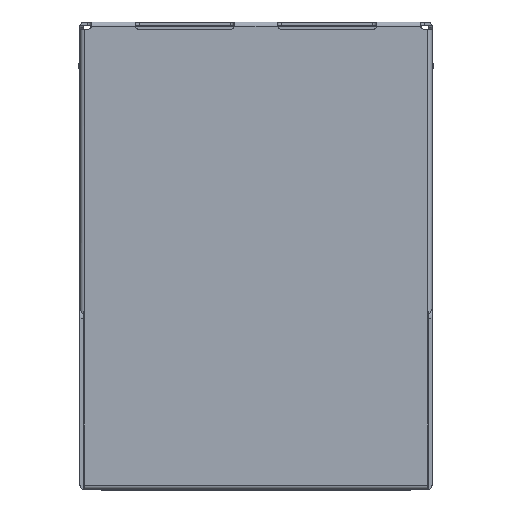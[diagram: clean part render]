
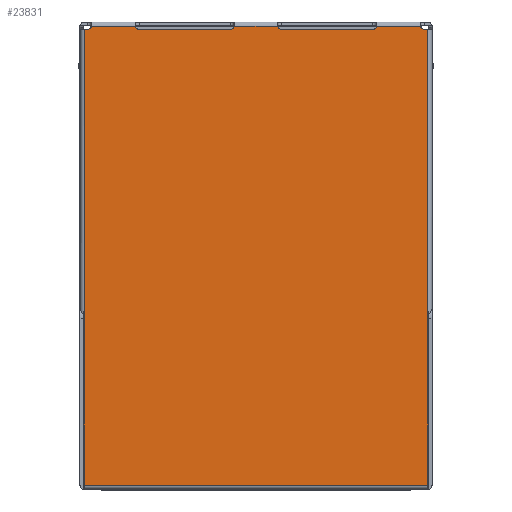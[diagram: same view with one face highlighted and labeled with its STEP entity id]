
A CAD part, top view. The second image highlights one B-rep face of the part: STEP entity #23831.
In plain terms, the highlighted planar face has unit normal (0, 0, 1).
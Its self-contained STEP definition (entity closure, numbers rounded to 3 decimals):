
#211 = VECTOR ( 'NONE', #10780, 1000. ) ;
#354 = ORIENTED_EDGE ( 'NONE', *, *, #30106, .T. ) ;
#732 = AXIS2_PLACEMENT_3D ( 'NONE', #48425, #31951, #11355 ) ;
#805 = EDGE_CURVE ( 'NONE', #3966, #19915, #39595, .T. ) ;
#838 = CARTESIAN_POINT ( 'NONE',  ( 0., 10.45, 13.5 ) ) ;
#1648 = CARTESIAN_POINT ( 'NONE',  ( 0., -10.45, 13.5 ) ) ;
#2051 = ORIENTED_EDGE ( 'NONE', *, *, #38008, .T. ) ;
#2305 = ORIENTED_EDGE ( 'NONE', *, *, #5623, .T. ) ;
#2688 = ORIENTED_EDGE ( 'NONE', *, *, #12637, .T. ) ;
#2921 = CARTESIAN_POINT ( 'NONE',  ( -1.175, 10.309, 13.5 ) ) ;
#3395 = VERTEX_POINT ( 'NONE', #2921 ) ;
#3687 = ORIENTED_EDGE ( 'NONE', *, *, #41191, .F. ) ;
#3710 = CARTESIAN_POINT ( 'NONE',  ( 5.325, 10.309, 13.5 ) ) ;
#3842 = LINE ( 'NONE', #19782, #6639 ) ;
#3966 = VERTEX_POINT ( 'NONE', #42006 ) ;
#4695 = ORIENTED_EDGE ( 'NONE', *, *, #8050, .F. ) ;
#5623 = EDGE_CURVE ( 'NONE', #41560, #51637, #50315, .T. ) ;
#6034 = ORIENTED_EDGE ( 'NONE', *, *, #805, .T. ) ;
#6212 = LINE ( 'NONE', #838, #13715 ) ;
#6259 = DIRECTION ( 'NONE',  ( -1., 0., 0. ) ) ;
#6597 = EDGE_CURVE ( 'NONE', #25002, #3395, #42719, .T. ) ;
#6639 = VECTOR ( 'NONE', #44136, 1000. ) ;
#6870 = LINE ( 'NONE', #19267, #53304 ) ;
#6939 = ORIENTED_EDGE ( 'NONE', *, *, #10053, .T. ) ;
#7204 = CARTESIAN_POINT ( 'NONE',  ( 7.82, -10.65, 13.5 ) ) ;
#7289 = DIRECTION ( 'NONE',  ( 0., 0., 1. ) ) ;
#7470 = DIRECTION ( 'NONE',  ( 0., -1., 0. ) ) ;
#7755 = AXIS2_PLACEMENT_3D ( 'NONE', #37603, #25191, #29037 ) ;
#8050 = EDGE_CURVE ( 'NONE', #21871, #16995, #52303, .T. ) ;
#8336 = CARTESIAN_POINT ( 'NONE',  ( -5.497, 10.45, 13.5 ) ) ;
#9190 = DIRECTION ( 'NONE',  ( -1., 0., 0. ) ) ;
#9306 = CARTESIAN_POINT ( 'NONE',  ( 5.497, 10.45, 13.5 ) ) ;
#9910 = CARTESIAN_POINT ( 'NONE',  ( -1.175, 10.484, 13.5 ) ) ;
#10053 = EDGE_CURVE ( 'NONE', #51447, #14689, #44040, .T. ) ;
#10780 = DIRECTION ( 'NONE',  ( 1., 0., 0. ) ) ;
#10958 = DIRECTION ( 'NONE',  ( 1., 0., 0. ) ) ;
#11047 = EDGE_CURVE ( 'NONE', #47498, #17635, #47841, .T. ) ;
#11319 = FACE_OUTER_BOUND ( 'NONE', #16331, .T. ) ;
#11355 = DIRECTION ( 'NONE',  ( 1., 0., 0. ) ) ;
#11733 = CARTESIAN_POINT ( 'NONE',  ( 7.82, -10.45, 13.5 ) ) ;
#12637 = EDGE_CURVE ( 'NONE', #44684, #28433, #38524, .T. ) ;
#13715 = VECTOR ( 'NONE', #9190, 1000. ) ;
#14681 = CIRCLE ( 'NONE', #28500, 0.175 ) ;
#14689 = VERTEX_POINT ( 'NONE', #32486 ) ;
#14743 = VERTEX_POINT ( 'NONE', #38644 ) ;
#15195 = CARTESIAN_POINT ( 'NONE',  ( -7.82, 10.309, 13.5 ) ) ;
#15252 = ORIENTED_EDGE ( 'NONE', *, *, #44301, .T. ) ;
#16331 = EDGE_LOOP ( 'NONE', ( #6034, #52462, #42528, #3687, #354, #4695, #34713, #2688, #49639, #24760, #49913, #50641, #20377, #40654, #2305, #15252, #6939, #2051 ) ) ;
#16995 = VERTEX_POINT ( 'NONE', #41402 ) ;
#17456 = VECTOR ( 'NONE', #40648, 1000. ) ;
#17635 = VERTEX_POINT ( 'NONE', #11733 ) ;
#18828 = CARTESIAN_POINT ( 'NONE',  ( 0., 10.45, 13.5 ) ) ;
#19267 = CARTESIAN_POINT ( 'NONE',  ( -7.82, -10.65, 13.5 ) ) ;
#19666 = VERTEX_POINT ( 'NONE', #29071 ) ;
#19782 = CARTESIAN_POINT ( 'NONE',  ( 5.5, 10.309, 13.5 ) ) ;
#19915 = VERTEX_POINT ( 'NONE', #31443 ) ;
#20377 = ORIENTED_EDGE ( 'NONE', *, *, #6597, .T. ) ;
#21497 = DIRECTION ( 'NONE',  ( 1., 0., 0. ) ) ;
#21871 = VERTEX_POINT ( 'NONE', #34561 ) ;
#21991 = VECTOR ( 'NONE', #39073, 1000. ) ;
#22019 = DIRECTION ( 'NONE',  ( 1., 0., 0. ) ) ;
#22302 = CARTESIAN_POINT ( 'NONE',  ( 5.325, 10.484, 13.5 ) ) ;
#23357 = LINE ( 'NONE', #39839, #17456 ) ;
#23548 = VECTOR ( 'NONE', #6259, 1000. ) ;
#23831 = ADVANCED_FACE ( 'NONE', ( #11319 ), #36432, .T. ) ;
#23935 = VERTEX_POINT ( 'NONE', #3710 ) ;
#24009 = DIRECTION ( 'NONE',  ( 1., 0., 0. ) ) ;
#24126 = DIRECTION ( 'NONE',  ( 0., -1., 0. ) ) ;
#24454 = VECTOR ( 'NONE', #24009, 1000. ) ;
#24760 = ORIENTED_EDGE ( 'NONE', *, *, #26160, .F. ) ;
#25002 = VERTEX_POINT ( 'NONE', #37419 ) ;
#25191 = DIRECTION ( 'NONE',  ( 0., 0., -1. ) ) ;
#26160 = EDGE_CURVE ( 'NONE', #19666, #23935, #3842, .T. ) ;
#27733 = CARTESIAN_POINT ( 'NONE',  ( 7.82, 0., 13.5 ) ) ;
#28433 = VERTEX_POINT ( 'NONE', #9306 ) ;
#28500 = AXIS2_PLACEMENT_3D ( 'NONE', #37962, #42334, #21497 ) ;
#29037 = DIRECTION ( 'NONE',  ( 1., 0., 0. ) ) ;
#29071 = CARTESIAN_POINT ( 'NONE',  ( 1.175, 10.309, 13.5 ) ) ;
#29838 = CARTESIAN_POINT ( 'NONE',  ( -7.503, 10.45, 13.5 ) ) ;
#30106 = EDGE_CURVE ( 'NONE', #14743, #16995, #31792, .T. ) ;
#31443 = CARTESIAN_POINT ( 'NONE',  ( -7.82, -2.737, 13.5 ) ) ;
#31792 = LINE ( 'NONE', #27733, #53134 ) ;
#31951 = DIRECTION ( 'NONE',  ( 0., 0., -1. ) ) ;
#32486 = CARTESIAN_POINT ( 'NONE',  ( -7.675, 10.309, 13.5 ) ) ;
#34259 = DIRECTION ( 'NONE',  ( 1., 0., 0. ) ) ;
#34356 = CIRCLE ( 'NONE', #732, 0.175 ) ;
#34421 = CARTESIAN_POINT ( 'NONE',  ( -7.82, -10.45, 13.5 ) ) ;
#34561 = CARTESIAN_POINT ( 'NONE',  ( 7.675, 10.309, 13.5 ) ) ;
#34713 = ORIENTED_EDGE ( 'NONE', *, *, #51894, .T. ) ;
#35371 = CARTESIAN_POINT ( 'NONE',  ( -5.325, 10.484, 13.5 ) ) ;
#35896 = CARTESIAN_POINT ( 'NONE',  ( -1., 10.309, 13.5 ) ) ;
#36076 = CARTESIAN_POINT ( 'NONE',  ( 7.82, 10.309, 13.5 ) ) ;
#36181 = DIRECTION ( 'NONE',  ( 1., 0., 0. ) ) ;
#36432 = PLANE ( 'NONE',  #49513 ) ;
#37419 = CARTESIAN_POINT ( 'NONE',  ( -1.003, 10.45, 13.5 ) ) ;
#37603 = CARTESIAN_POINT ( 'NONE',  ( -7.675, 10.484, 13.5 ) ) ;
#37962 = CARTESIAN_POINT ( 'NONE',  ( 7.675, 10.484, 13.5 ) ) ;
#38008 = EDGE_CURVE ( 'NONE', #14689, #3966, #39491, .T. ) ;
#38524 = LINE ( 'NONE', #18828, #21991 ) ;
#38644 = CARTESIAN_POINT ( 'NONE',  ( 7.82, -2.737, 13.5 ) ) ;
#38829 = DIRECTION ( 'NONE',  ( 0., 0., -1. ) ) ;
#39051 = DIRECTION ( 'NONE',  ( 0., -1., 0. ) ) ;
#39073 = DIRECTION ( 'NONE',  ( -1., 0., 0. ) ) ;
#39491 = LINE ( 'NONE', #15195, #23548 ) ;
#39595 = LINE ( 'NONE', #52006, #53158 ) ;
#39839 = CARTESIAN_POINT ( 'NONE',  ( 0., 10.45, 13.5 ) ) ;
#39952 = LINE ( 'NONE', #35896, #24454 ) ;
#40648 = DIRECTION ( 'NONE',  ( -1., 0., 0. ) ) ;
#40654 = ORIENTED_EDGE ( 'NONE', *, *, #45046, .F. ) ;
#40849 = CARTESIAN_POINT ( 'NONE',  ( 7.503, 10.45, 13.5 ) ) ;
#41191 = EDGE_CURVE ( 'NONE', #14743, #17635, #52602, .T. ) ;
#41402 = CARTESIAN_POINT ( 'NONE',  ( 7.82, 10.309, 13.5 ) ) ;
#41560 = VERTEX_POINT ( 'NONE', #45696 ) ;
#41725 = EDGE_CURVE ( 'NONE', #50977, #25002, #6212, .T. ) ;
#42006 = CARTESIAN_POINT ( 'NONE',  ( -7.82, 10.309, 13.5 ) ) ;
#42334 = DIRECTION ( 'NONE',  ( 0., 0., -1. ) ) ;
#42528 = ORIENTED_EDGE ( 'NONE', *, *, #11047, .T. ) ;
#42719 = CIRCLE ( 'NONE', #47005, 0.175 ) ;
#43685 = DIRECTION ( 'NONE',  ( 0., 1., 0. ) ) ;
#44040 = CIRCLE ( 'NONE', #7755, 0.175 ) ;
#44136 = DIRECTION ( 'NONE',  ( 1., 0., 0. ) ) ;
#44301 = EDGE_CURVE ( 'NONE', #51637, #51447, #23357, .T. ) ;
#44324 = CARTESIAN_POINT ( 'NONE',  ( 0., 0., 13.5 ) ) ;
#44684 = VERTEX_POINT ( 'NONE', #40849 ) ;
#45046 = EDGE_CURVE ( 'NONE', #41560, #3395, #39952, .T. ) ;
#45696 = CARTESIAN_POINT ( 'NONE',  ( -5.325, 10.309, 13.5 ) ) ;
#46894 = AXIS2_PLACEMENT_3D ( 'NONE', #35371, #47823, #48084 ) ;
#47005 = AXIS2_PLACEMENT_3D ( 'NONE', #9910, #38829, #34259 ) ;
#47459 = DIRECTION ( 'NONE',  ( 0., 0., -1. ) ) ;
#47498 = VERTEX_POINT ( 'NONE', #34421 ) ;
#47823 = DIRECTION ( 'NONE',  ( 0., 0., -1. ) ) ;
#47841 = LINE ( 'NONE', #1648, #211 ) ;
#48046 = CIRCLE ( 'NONE', #49773, 0.175 ) ;
#48084 = DIRECTION ( 'NONE',  ( 1., 0., 0. ) ) ;
#48360 = EDGE_CURVE ( 'NONE', #19915, #47498, #6870, .T. ) ;
#48425 = CARTESIAN_POINT ( 'NONE',  ( 1.175, 10.484, 13.5 ) ) ;
#48712 = EDGE_CURVE ( 'NONE', #19666, #50977, #34356, .T. ) ;
#49513 = AXIS2_PLACEMENT_3D ( 'NONE', #44324, #7289, #36181 ) ;
#49618 = CARTESIAN_POINT ( 'NONE',  ( 1.003, 10.45, 13.5 ) ) ;
#49639 = ORIENTED_EDGE ( 'NONE', *, *, #52139, .T. ) ;
#49773 = AXIS2_PLACEMENT_3D ( 'NONE', #22302, #47459, #22019 ) ;
#49913 = ORIENTED_EDGE ( 'NONE', *, *, #48712, .T. ) ;
#50315 = CIRCLE ( 'NONE', #46894, 0.175 ) ;
#50641 = ORIENTED_EDGE ( 'NONE', *, *, #41725, .T. ) ;
#50977 = VERTEX_POINT ( 'NONE', #49618 ) ;
#51060 = VECTOR ( 'NONE', #7470, 1000. ) ;
#51447 = VERTEX_POINT ( 'NONE', #29838 ) ;
#51637 = VERTEX_POINT ( 'NONE', #8336 ) ;
#51894 = EDGE_CURVE ( 'NONE', #21871, #44684, #14681, .T. ) ;
#52006 = CARTESIAN_POINT ( 'NONE',  ( -7.82, 0., 13.5 ) ) ;
#52139 = EDGE_CURVE ( 'NONE', #28433, #23935, #48046, .T. ) ;
#52303 = LINE ( 'NONE', #36076, #53153 ) ;
#52462 = ORIENTED_EDGE ( 'NONE', *, *, #48360, .T. ) ;
#52602 = LINE ( 'NONE', #7204, #51060 ) ;
#53134 = VECTOR ( 'NONE', #43685, 1000. ) ;
#53153 = VECTOR ( 'NONE', #10958, 1000. ) ;
#53158 = VECTOR ( 'NONE', #39051, 1000. ) ;
#53304 = VECTOR ( 'NONE', #24126, 1000. ) ;
